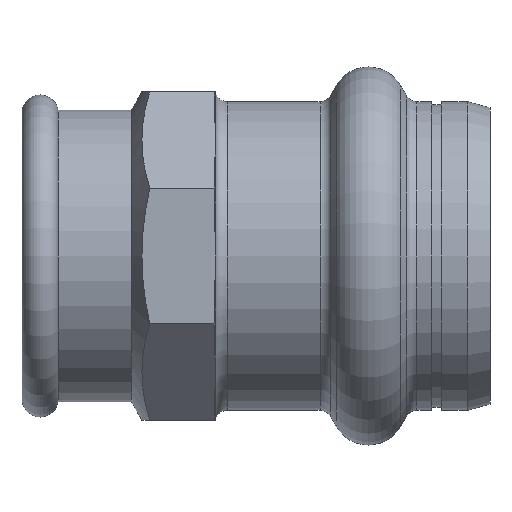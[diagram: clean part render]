
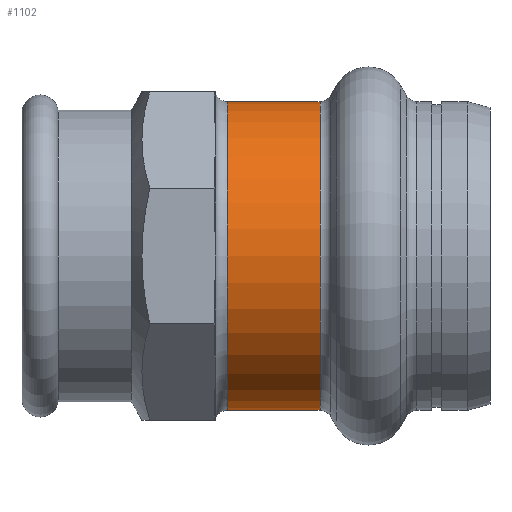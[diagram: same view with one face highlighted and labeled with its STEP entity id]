
A CAD part, left-side view. The second image highlights one B-rep face of the part: STEP entity #1102.
In plain terms, the highlighted cylindrical face has radius 12.7 mm (diameter 25.4 mm), a partial arc.
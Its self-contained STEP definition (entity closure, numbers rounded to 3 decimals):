
#13 = VECTOR ( 'NONE', #1789, 1000. ) ;
#42 = DIRECTION ( 'NONE',  ( 0., 0., -1. ) ) ;
#77 = LINE ( 'NONE', #1063, #1423 ) ;
#160 = CARTESIAN_POINT ( 'NONE',  ( 0., 13.984, 12.7 ) ) ;
#209 = ORIENTED_EDGE ( 'NONE', *, *, #1985, .F. ) ;
#213 = EDGE_CURVE ( 'NONE', #795, #1515, #267, .T. ) ;
#267 = CIRCLE ( 'NONE', #824, 12.7 ) ;
#301 = ORIENTED_EDGE ( 'NONE', *, *, #637, .T. ) ;
#328 = FACE_OUTER_BOUND ( 'NONE', #1803, .T. ) ;
#453 = AXIS2_PLACEMENT_3D ( 'NONE', #723, #1019, #803 ) ;
#498 = EDGE_CURVE ( 'NONE', #2033, #1433, #1908, .T. ) ;
#546 = CARTESIAN_POINT ( 'NONE',  ( 0., 21.624, -12.7 ) ) ;
#567 = CARTESIAN_POINT ( 'NONE',  ( 0., 21.624, 12.7 ) ) ;
#576 = CARTESIAN_POINT ( 'NONE',  ( 0., 13.984, 0. ) ) ;
#637 = EDGE_CURVE ( 'NONE', #1515, #1433, #77, .T. ) ;
#723 = CARTESIAN_POINT ( 'NONE',  ( 0., -17.811, 0. ) ) ;
#770 = CARTESIAN_POINT ( 'NONE',  ( 0., -17.811, 12.7 ) ) ;
#795 = VERTEX_POINT ( 'NONE', #567 ) ;
#803 = DIRECTION ( 'NONE',  ( 0., 0., -1. ) ) ;
#824 = AXIS2_PLACEMENT_3D ( 'NONE', #1870, #1847, #1822 ) ;
#888 = LINE ( 'NONE', #770, #13 ) ;
#989 = CARTESIAN_POINT ( 'NONE',  ( 0., 13.984, -12.7 ) ) ;
#1019 = DIRECTION ( 'NONE',  ( 0., -1., 0. ) ) ;
#1063 = CARTESIAN_POINT ( 'NONE',  ( 0., -17.811, -12.7 ) ) ;
#1102 = ADVANCED_FACE ( 'NONE', ( #328 ), #1568, .T. ) ;
#1202 = DIRECTION ( 'NONE',  ( 0., -1., 0. ) ) ;
#1307 = ORIENTED_EDGE ( 'NONE', *, *, #498, .F. ) ;
#1423 = VECTOR ( 'NONE', #1982, 1000. ) ;
#1433 = VERTEX_POINT ( 'NONE', #989 ) ;
#1515 = VERTEX_POINT ( 'NONE', #546 ) ;
#1528 = ORIENTED_EDGE ( 'NONE', *, *, #213, .T. ) ;
#1540 = AXIS2_PLACEMENT_3D ( 'NONE', #576, #1202, #42 ) ;
#1568 = CYLINDRICAL_SURFACE ( 'NONE', #453, 12.7 ) ;
#1789 = DIRECTION ( 'NONE',  ( 0., -1., 0. ) ) ;
#1803 = EDGE_LOOP ( 'NONE', ( #209, #1528, #301, #1307 ) ) ;
#1822 = DIRECTION ( 'NONE',  ( 0., 0., -1. ) ) ;
#1847 = DIRECTION ( 'NONE',  ( 0., -1., 0. ) ) ;
#1870 = CARTESIAN_POINT ( 'NONE',  ( 0., 21.624, 0. ) ) ;
#1908 = CIRCLE ( 'NONE', #1540, 12.7 ) ;
#1982 = DIRECTION ( 'NONE',  ( 0., -1., 0. ) ) ;
#1985 = EDGE_CURVE ( 'NONE', #795, #2033, #888, .T. ) ;
#2033 = VERTEX_POINT ( 'NONE', #160 ) ;
